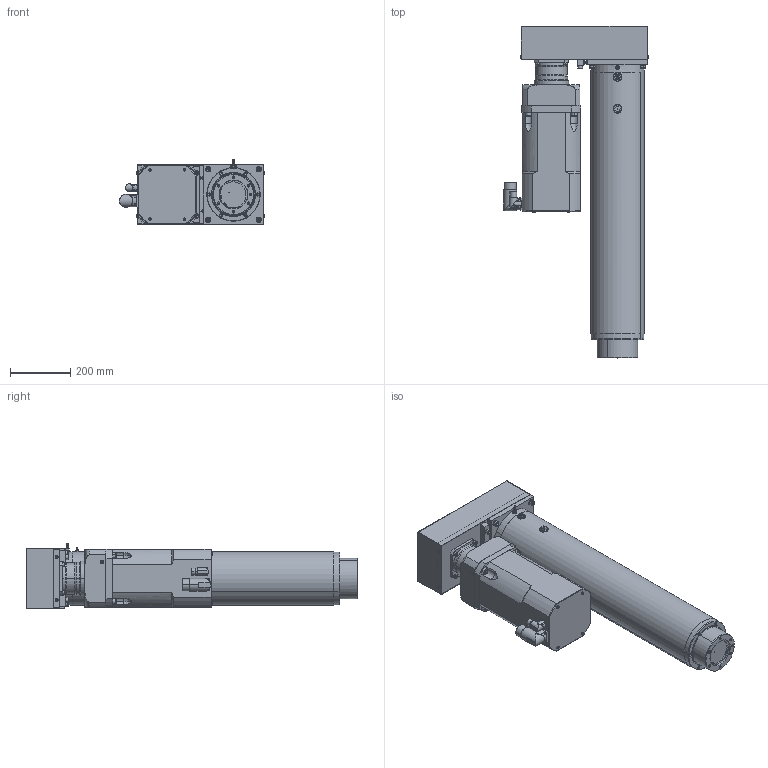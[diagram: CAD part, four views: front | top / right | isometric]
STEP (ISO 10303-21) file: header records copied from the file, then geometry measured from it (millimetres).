
FILE_DESCRIPTION (( 'STEP AP203' ), '1' );
FILE_NAME ('LN5P0600-055-025HG.STEP', '2018-01-30T12:02:39', ( '' ), ( '' ), 'SwSTEP 2.0', 'SolidWorks 2016', '' );
FILE_SCHEMA (( 'CONFIG_CONTROL_DESIGN' ));
Length unit declared in the file: millimetre
Products named in the file (1): LN5P0600-055-025HG
Bounding box: 483.25 x 1103.5 x 216.14 mm (x, y, z)
Volume: 33168695.4 mm3; surface area: 2988305.7 mm2
Topology: 45 solids, 45 shells, 1462 faces, 3391 edges, 2023 vertices
Faces by surface type: plane 563, cylinder 522, cone 267, torus 78, bspline 30, sphere 2
Entity records: 42685 total; most frequent: CARTESIAN_POINT 9230, DIRECTION 7403, ORIENTED_EDGE 6498, EDGE_CURVE 3249, AXIS2_PLACEMENT_3D 2893, VERTEX_POINT 2023, EDGE_LOOP 1736, VECTOR 1617
